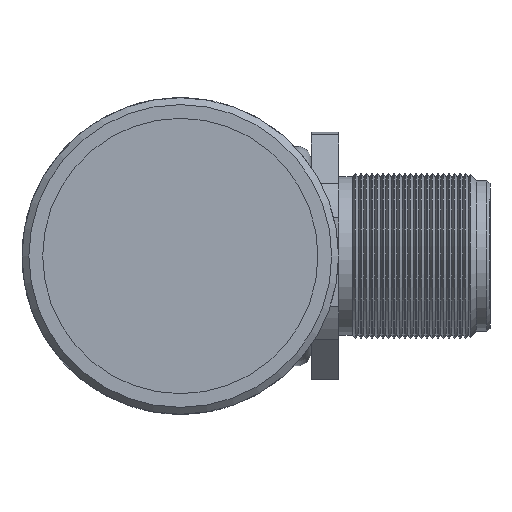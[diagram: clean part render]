
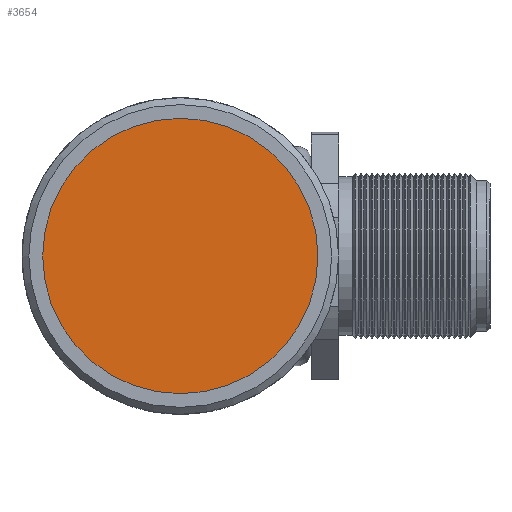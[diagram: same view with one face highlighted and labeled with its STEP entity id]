
A CAD part, left-side view. The second image highlights one B-rep face of the part: STEP entity #3654.
In plain terms, the highlighted planar face has unit normal (-1, 0, 0).
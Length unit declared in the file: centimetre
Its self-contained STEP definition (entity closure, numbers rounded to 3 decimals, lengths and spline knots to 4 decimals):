
#767=PLANE('',#3941);
#847=CIRCLE('',#3940,1.);
#1131=VERTEX_POINT('',#5438);
#1591=EDGE_CURVE('',#1131,#1131,#847,.T.);
#2227=ORIENTED_EDGE('',*,*,#1591,.T.);
#2914=EDGE_LOOP('',(#2227));
#3289=FACE_BOUND('',#2914,.T.);
#3654=ADVANCED_FACE('',(#3289),#767,.F.);
#3940=AXIS2_PLACEMENT_3D('',#5437,#6398,#6399);
#3941=AXIS2_PLACEMENT_3D('',#5439,#6400,$);
#5437=CARTESIAN_POINT('',(-3.6,0.,0.));
#5438=CARTESIAN_POINT('',(-3.6,0.,-1.));
#5439=CARTESIAN_POINT('',(-3.6,0.,0.));
#6398=DIRECTION('',(-1.,0.,0.));
#6399=DIRECTION('',(0.,0.,-1.));
#6400=DIRECTION('',(1.,0.,0.));
